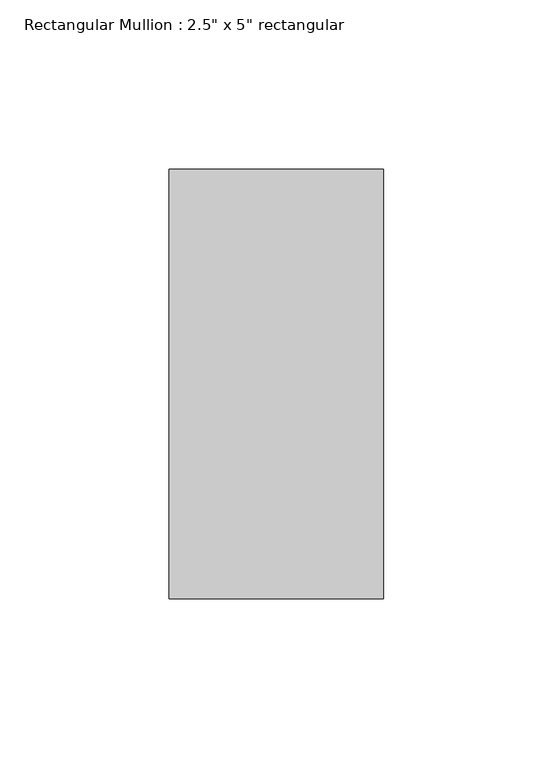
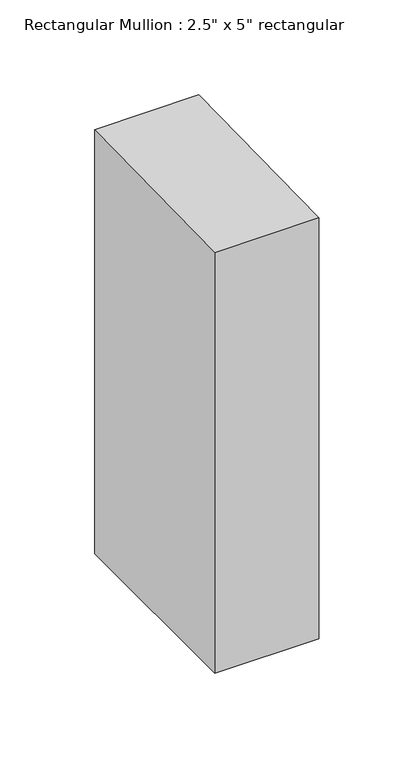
"""IFC4 building model written with IfcOpenShell, lengths in millimetres: member geometry."""

from ifc_helpers import new_model, si_unit, origin, place, context, project, spatial, faceted_brep, source, transform, mapped, element, save


def member_f0cd7816(model_context):
    return source(origin(), model_context, "Body", "Brep", [
        faceted_brep([(31.75, 63.5, -272.6595235), (31.75, -63.5, -272.6595235), (-31.75, -63.5, -272.6595235), (-31.75, 63.5, -272.6595235), (-31.75, 63.5, 0.9787822), (31.75, 63.5, 1.3798924), (-31.75, -63.5, -1.3798924), (31.75, -63.5, -0.9787822)], [[[0, 1, 2, 3]], [[4, 5, 0, 3]], [[6, 4, 3, 2]], [[7, 6, 2, 1]], [[5, 7, 1, 0]], [[5, 4, 6, 7]]]),
    ])


if __name__ == "__main__":
    model = new_model("IFC4")
    model_context = context("Model", 3, world=origin())
    ifc_project = project(units=[si_unit("LENGTHUNIT", "METRE", prefix="MILLI")], contexts=[model_context])
    site = spatial("IfcSite", under=ifc_project)
    building = spatial("IfcBuilding", under=site)
    placement = place(None, origin())
    member_shape = member_f0cd7816(model_context)
    element("IfcMember", 1, ObjectType="Rectangular Mullion : 2.5\" x 5\" rectangular", at=placement, inside=building, context=model_context, shape_type="MappedRepresentation", body=[
        mapped(member_shape, transform((0.0, 0.0, 0.0), x_axis=(1.0, 0.0, 0.0), y_axis=(0.0, 1.0, 0.0), z_axis=(0.0, 0.0, 1.0))),
    ])
    save(model, "model.ifc")
